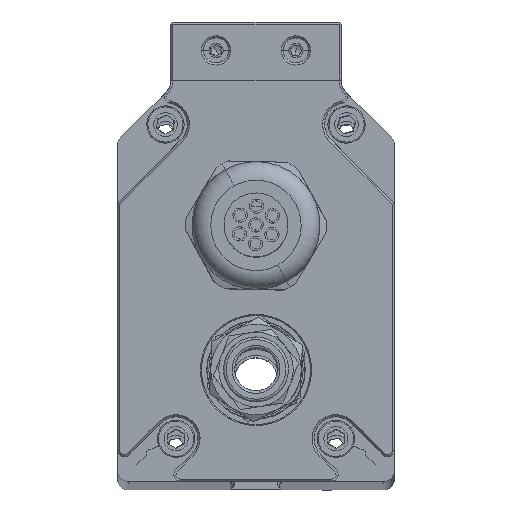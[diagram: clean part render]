
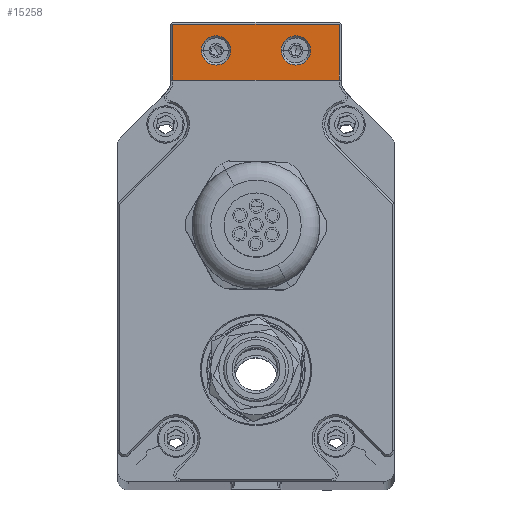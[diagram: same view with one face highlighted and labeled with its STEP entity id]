
A CAD part, top view. The second image highlights one B-rep face of the part: STEP entity #15258.
In plain terms, the highlighted planar face has unit normal (0, 0, 1).
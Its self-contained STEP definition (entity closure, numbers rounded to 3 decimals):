
#137 = VERTEX_POINT ( 'NONE', #266 ) ;
#266 = CARTESIAN_POINT ( 'NONE',  ( -15.6, -8.657, 8. ) ) ;
#808 = VERTEX_POINT ( 'NONE', #11731 ) ;
#1188 = EDGE_LOOP ( 'NONE', ( #5244, #18321 ) ) ;
#1507 = FACE_BOUND ( 'NONE', #22683, .T. ) ;
#1808 = CARTESIAN_POINT ( 'NONE',  ( -15.6, -84., 8. ) ) ;
#2533 = CARTESIAN_POINT ( 'NONE',  ( -15.6, 1.85, 8. ) ) ;
#2565 = DIRECTION ( 'NONE',  ( 1., 0., 0. ) ) ;
#3075 = AXIS2_PLACEMENT_3D ( 'NONE', #17676, #25220, #19458 ) ;
#4149 = VERTEX_POINT ( 'NONE', #6998 ) ;
#4624 = ORIENTED_EDGE ( 'NONE', *, *, #16532, .F. ) ;
#4715 = CIRCLE ( 'NONE', #9213, 2.75 ) ;
#4734 = CARTESIAN_POINT ( 'NONE',  ( -7.5, -3.09, 8. ) ) ;
#5244 = ORIENTED_EDGE ( 'NONE', *, *, #20205, .F. ) ;
#6045 = EDGE_CURVE ( 'NONE', #9790, #23236, #21059, .T. ) ;
#6142 = EDGE_CURVE ( 'NONE', #23236, #9790, #4715, .T. ) ;
#6299 = DIRECTION ( 'NONE',  ( -1., 0., 0. ) ) ;
#6588 = VERTEX_POINT ( 'NONE', #2533 ) ;
#6957 = AXIS2_PLACEMENT_3D ( 'NONE', #11605, #13524, #25296 ) ;
#6998 = CARTESIAN_POINT ( 'NONE',  ( 4.75, -3.09, 8. ) ) ;
#7193 = AXIS2_PLACEMENT_3D ( 'NONE', #22542, #14353, #10777 ) ;
#7605 = DIRECTION ( 'NONE',  ( -1., 0., 0. ) ) ;
#8504 = VERTEX_POINT ( 'NONE', #22059 ) ;
#9213 = AXIS2_PLACEMENT_3D ( 'NONE', #4734, #12548, #2565 ) ;
#9307 = DIRECTION ( 'NONE',  ( 1., 0., 0. ) ) ;
#9309 = FACE_BOUND ( 'NONE', #1188, .T. ) ;
#9790 = VERTEX_POINT ( 'NONE', #14631 ) ;
#10777 = DIRECTION ( 'NONE',  ( 1., 0., 0. ) ) ;
#11071 = ORIENTED_EDGE ( 'NONE', *, *, #6045, .F. ) ;
#11343 = CARTESIAN_POINT ( 'NONE',  ( 15.6, 0., 8. ) ) ;
#11605 = CARTESIAN_POINT ( 'NONE',  ( 0., -84., 8. ) ) ;
#11731 = CARTESIAN_POINT ( 'NONE',  ( 10.25, -3.09, 8. ) ) ;
#12548 = DIRECTION ( 'NONE',  ( 0., 0., 1. ) ) ;
#13524 = DIRECTION ( 'NONE',  ( 0., 0., 1. ) ) ;
#13636 = CARTESIAN_POINT ( 'NONE',  ( 7.5, -3.09, 8. ) ) ;
#13736 = CARTESIAN_POINT ( 'NONE',  ( -15.6, 1.85, 8. ) ) ;
#13979 = EDGE_LOOP ( 'NONE', ( #4624, #24360, #22104, #18788 ) ) ;
#14353 = DIRECTION ( 'NONE',  ( 0., 0., 1. ) ) ;
#14457 = EDGE_CURVE ( 'NONE', #6588, #137, #21381, .T. ) ;
#14631 = CARTESIAN_POINT ( 'NONE',  ( -10.25, -3.09, 8. ) ) ;
#15258 = ADVANCED_FACE ( 'NONE', ( #21444, #9309, #1507 ), #20943, .T. ) ;
#16173 = CIRCLE ( 'NONE', #7193, 2.75 ) ;
#16531 = CARTESIAN_POINT ( 'NONE',  ( -15.6, -8.657, 8. ) ) ;
#16532 = EDGE_CURVE ( 'NONE', #8504, #137, #23835, .T. ) ;
#16547 = VECTOR ( 'NONE', #23345, 1000. ) ;
#17091 = LINE ( 'NONE', #11343, #16547 ) ;
#17182 = VECTOR ( 'NONE', #19591, 1000. ) ;
#17322 = VECTOR ( 'NONE', #7605, 1000. ) ;
#17676 = CARTESIAN_POINT ( 'NONE',  ( -7.5, -3.09, 8. ) ) ;
#17927 = CARTESIAN_POINT ( 'NONE',  ( -4.75, -3.09, 8. ) ) ;
#18321 = ORIENTED_EDGE ( 'NONE', *, *, #23963, .F. ) ;
#18788 = ORIENTED_EDGE ( 'NONE', *, *, #14457, .T. ) ;
#19014 = CARTESIAN_POINT ( 'NONE',  ( 15.6, 1.85, 8. ) ) ;
#19074 = EDGE_CURVE ( 'NONE', #23870, #6588, #19247, .T. ) ;
#19247 = LINE ( 'NONE', #13736, #17322 ) ;
#19458 = DIRECTION ( 'NONE',  ( 1., 0., 0. ) ) ;
#19591 = DIRECTION ( 'NONE',  ( 0., -1., 0. ) ) ;
#19597 = EDGE_CURVE ( 'NONE', #8504, #23870, #17091, .T. ) ;
#19947 = AXIS2_PLACEMENT_3D ( 'NONE', #13636, #23370, #9307 ) ;
#20205 = EDGE_CURVE ( 'NONE', #808, #4149, #16173, .T. ) ;
#20943 = PLANE ( 'NONE',  #6957 ) ;
#21059 = CIRCLE ( 'NONE', #3075, 2.75 ) ;
#21381 = LINE ( 'NONE', #1808, #17182 ) ;
#21444 = FACE_OUTER_BOUND ( 'NONE', #13979, .T. ) ;
#22059 = CARTESIAN_POINT ( 'NONE',  ( 15.6, -8.657, 8. ) ) ;
#22104 = ORIENTED_EDGE ( 'NONE', *, *, #19074, .T. ) ;
#22542 = CARTESIAN_POINT ( 'NONE',  ( 7.5, -3.09, 8. ) ) ;
#22683 = EDGE_LOOP ( 'NONE', ( #24008, #11071 ) ) ;
#23236 = VERTEX_POINT ( 'NONE', #17927 ) ;
#23345 = DIRECTION ( 'NONE',  ( 0., 1., 0. ) ) ;
#23346 = VECTOR ( 'NONE', #6299, 1000. ) ;
#23370 = DIRECTION ( 'NONE',  ( 0., 0., 1. ) ) ;
#23835 = LINE ( 'NONE', #16531, #23346 ) ;
#23870 = VERTEX_POINT ( 'NONE', #19014 ) ;
#23963 = EDGE_CURVE ( 'NONE', #4149, #808, #24451, .T. ) ;
#24008 = ORIENTED_EDGE ( 'NONE', *, *, #6142, .F. ) ;
#24360 = ORIENTED_EDGE ( 'NONE', *, *, #19597, .T. ) ;
#24451 = CIRCLE ( 'NONE', #19947, 2.75 ) ;
#25220 = DIRECTION ( 'NONE',  ( 0., 0., 1. ) ) ;
#25296 = DIRECTION ( 'NONE',  ( 1., 0., 0. ) ) ;
